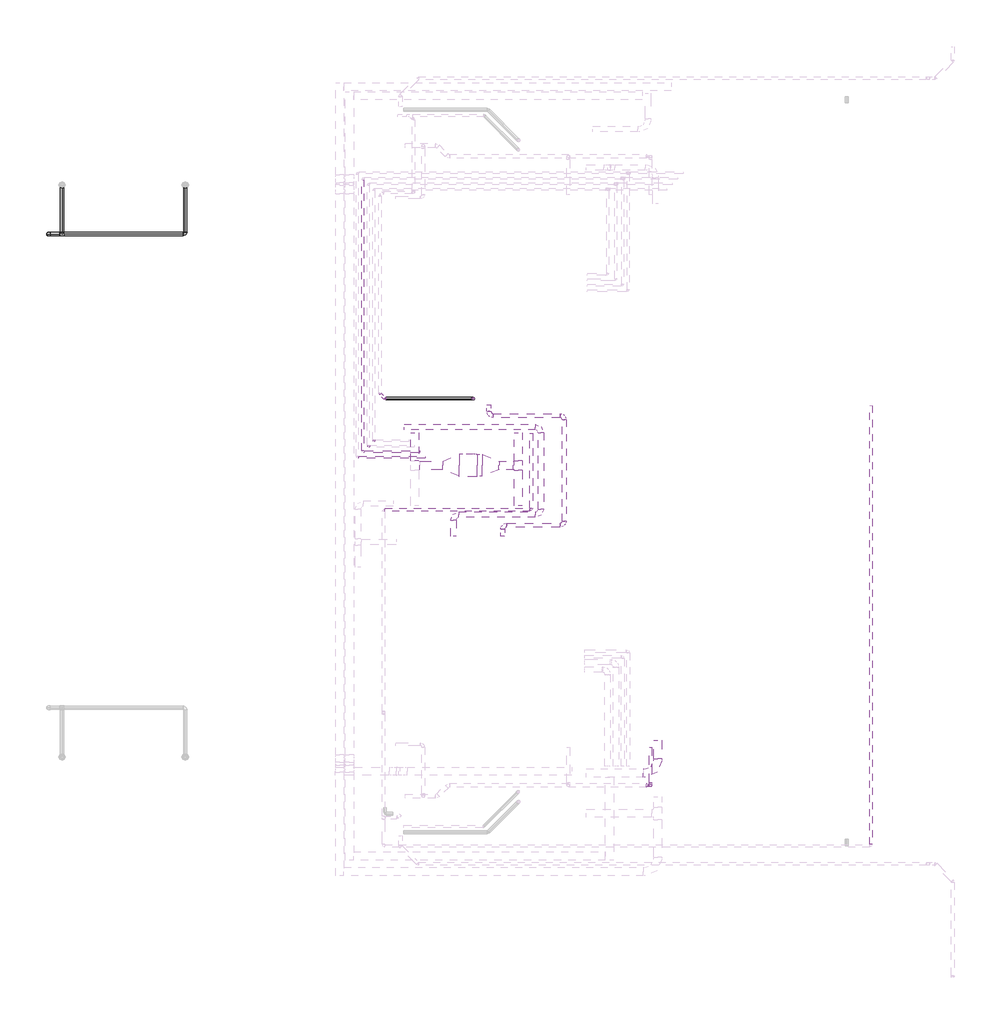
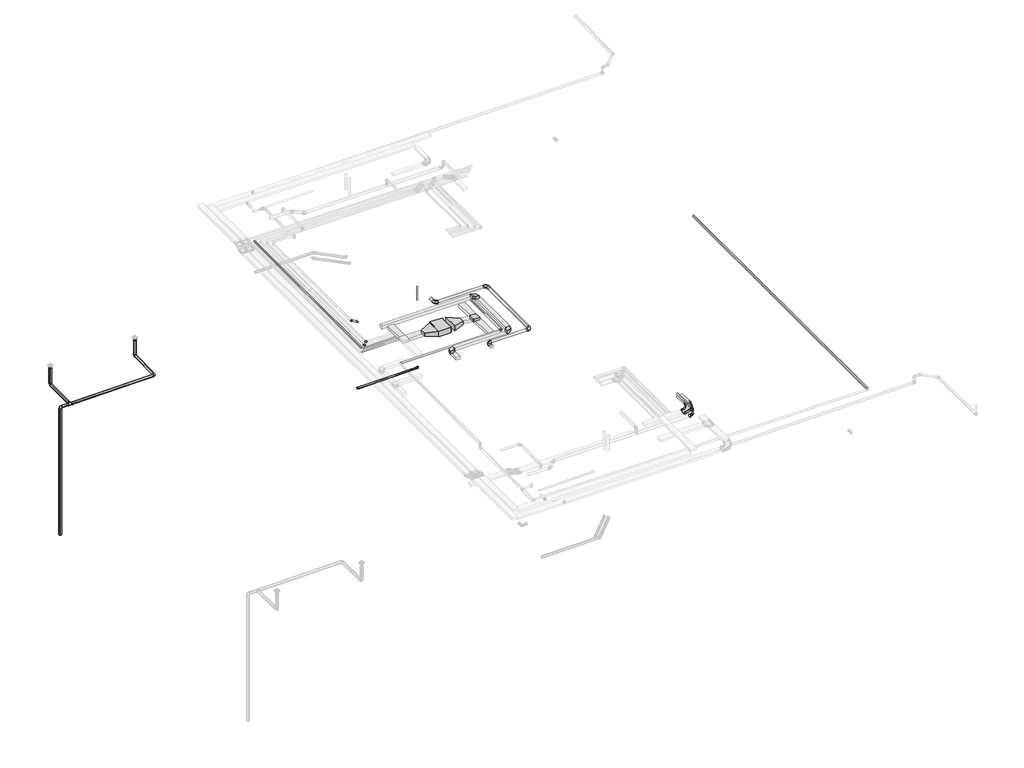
# One storey, part 3 of 5: 17 duct segments, 16 pipe segments, 13 duct fittings, 13 pipe fittings, 1 cable carrier fitting, 1 cable carrier segment, 1 proxy.
"""IFC4 building model written with IfcOpenShell, lengths in millimetres."""

from ifc_helpers import new_model, si_unit, point, frame, frame_2d, origin, place, context, project, spatial, polyline, circle_curve, trimmed, segment, composite_curve, outline, extrude, transform, mapped, element, save
from components import fc01_db58e849, m_codo_horizontal_de_canal_el_5b0e7b07, duct_fitting_c79161f8, duct_fitting_e8ecb067, duct_fitting_4802cc83, ext_95de42ea, m_codo_rectangular_radio_apt_1_w_a605e9b7, m_codo_redondo_ext_1_d_fe658834, m_codo_redondo_ext_1_d_96ea52f9, pipe_fitting_8e92d537, pipe_fitting_e4fb672d, pipe_fitting_932eafa3, pipe_fitting_014d1fef, pipe_fitting_7b861d32, pipe_fitting_a8c499ec, pipe_fitting_f5d6ed74, pipe_fitting_3a68447e, pipe_fitting_87aeffad

model = new_model("IFC4")

# Units and contexts
model_context = context("Model", 3, world=origin())
ifc_project = project(units=[si_unit("LENGTHUNIT", "METRE", prefix="MILLI")], contexts=[model_context])

# Site, building, storey
site = spatial("IfcSite", under=ifc_project)
building = spatial("IfcBuilding", under=site)
storey = spatial("IfcBuildingStorey", under=building, Name="Nivell 04 P04_PP", Elevation=22410.0)

# Proxy
placement = place(None, origin())
fc01_shape = fc01_db58e849(model_context)
element("IfcBuildingElementProxy", 1, Name="ARC_MDL_ME_UI_FC_ConducteSostre : FC01", ObjectType="ARC_MDL_ME_UI_FC_ConducteSostre : FC01", at=placement, inside=storey, context=model_context, shape_type="MappedRepresentation", body=[
    mapped(fc01_shape, transform((9681.3112506, -4290.0827616, 25519.6198525), x_axis=(-5.108879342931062e-05, -0.9999999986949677, 0.0), y_axis=(0.9999999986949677, -5.108879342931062e-05, 0.0), z_axis=(0.0, 0.0, 1.0))),
])

# Cable carrier fitting
m_codo_horizontal_de_canal_el_shape = m_codo_horizontal_de_canal_el_5b0e7b07(model_context)
element("IfcCableCarrierFitting", 2, ObjectType="M_Codo horizontal de canal : EL", at=placement, inside=storey, context=model_context, shape_type="MappedRepresentation", body=[
    mapped(m_codo_horizontal_de_canal_el_shape, transform((16614.6624278, -15521.1304394, 25510.0), x_axis=(1.0, 0.0, 0.0), y_axis=(0.0, 1.0, 0.0), z_axis=(0.0, 0.0, 1.0))),
])

# Cable carrier segment
element("IfcCableCarrierSegment", 3, ObjectType="EL", at=placement, inside=storey, context=model_context, shape_type="SweptSolid", body=[
    extrude(outline(polyline([(16464.6624278, -14321.1304394), (16764.6624278, -14321.1304394), (16764.6624278, -14996.1304394), (16464.6624278, -14996.1304394), (16464.6624278, -14321.1304394)])), frame((0.0, 0.0, 25460.0), z_axis=(0.0, 0.0, 1.0), x_axis=(1.0, 0.0, 0.0)), (0.0, 0.0, 1.0), 100.0),
])

# Duct fittings
duct_fitting_shape = duct_fitting_c79161f8(model_context)
element("IfcDuctFitting", 4, ObjectType="M_Transición redonda - Ángulo : EXT_45 graus", at=placement, inside=storey, context=model_context, shape_type="MappedRepresentation", body=[
    mapped(duct_fitting_shape, transform((16250.5896993, -15972.9719502, 25515.0), x_axis=(-1.0, 0.0, 0.0), y_axis=(0.0, -1.0, 0.0), z_axis=(0.0, 0.0, 1.0))),
])
duct_fitting_2_shape = duct_fitting_e8ecb067(model_context)
element("IfcDuctFitting", 5, ObjectType="M_Transición rectangular - Ángulo : EXT_45 graus", at=placement, inside=storey, context=model_context, shape_type="MappedRepresentation", body=[
    mapped(duct_fitting_2_shape, transform((9366.311258, -4289.9287549, 25677.1198525), x_axis=(-0.9999999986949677, 5.108879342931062e-05, 0.0), y_axis=(-5.108879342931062e-05, -0.9999999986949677, 0.0), z_axis=(0.0, 0.0, 1.0))),
])
duct_fitting_3_shape = duct_fitting_4802cc83(model_context)
element("IfcDuctFitting", 6, ObjectType="M_Transición rectangular - Ángulo : EXT_45 graus", at=placement, inside=storey, context=model_context, shape_type="MappedRepresentation", body=[
    mapped(duct_fitting_3_shape, transform((10216.57728, -4290.2068024, 25677.1198525), x_axis=(0.9999999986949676, -5.1088793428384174e-05, 0.0), y_axis=(5.1088793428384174e-05, 0.9999999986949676, 0.0), z_axis=(0.0, 0.0, 1.0))),
])
ext_shape = ext_95de42ea(model_context)
element("IfcDuctFitting", 7, ObjectType="M_Te rectangular : EXT", at=placement, inside=storey, context=model_context, shape_type="MappedRepresentation", body=[
    mapped(ext_shape, transform((11523.311255, -4289.9524808, 25575.8305344), x_axis=(0.0, -1.0, 0.0), y_axis=(1.0, 0.0, 0.0), z_axis=(0.0, 0.0, 1.0))),
])
m_codo_rectangular_radio_apt_1_w_shape = m_codo_rectangular_radio_apt_1_w_a605e9b7(model_context)
element("IfcDuctFitting", 8, ObjectType="M_Codo rectangular - Radio : EXT_1 W", at=placement, inside=storey, context=model_context, shape_type="MappedRepresentation", body=[
    mapped(m_codo_rectangular_radio_apt_1_w_shape, transform((12351.1206995, -6088.8306037, 25685.0), x_axis=(1.0, 0.0, 0.0), y_axis=(0.0, 1.0, 0.0), z_axis=(0.0, 0.0, 1.0))),
])
element("IfcDuctFitting", 9, ObjectType="M_Codo rectangular - Radio : EXT_1 W", at=placement, inside=storey, context=model_context, shape_type="MappedRepresentation", body=[
    mapped(m_codo_rectangular_radio_apt_1_w_shape, transform((9151.1206995, -6088.8306037, 25685.0), x_axis=(-1.0, 0.0, 0.0), y_axis=(0.0, -1.0, 0.0), z_axis=(0.0, 0.0, 1.0))),
])
element("IfcDuctFitting", 10, ObjectType="M_Codo rectangular - Radio : EXT_1 W", at=placement, inside=storey, context=model_context, shape_type="MappedRepresentation", body=[
    mapped(m_codo_rectangular_radio_apt_1_w_shape, transform((12351.1206995, -2888.8306037, 25685.0), x_axis=(0.0, 1.0, 0.0), y_axis=(-1.0, 0.0, 0.0), z_axis=(0.0, 0.0, 1.0))),
])
m_codo_redondo_ext_1_d_shape = m_codo_redondo_ext_1_d_fe658834(model_context)
element("IfcDuctFitting", 11, ObjectType="M_Codo redondo : EXT_1 D", at=placement, inside=storey, context=model_context, shape_type="MappedRepresentation", body=[
    mapped(m_codo_redondo_ext_1_d_shape, transform((10951.1206995, -6468.8306037, 25685.0), x_axis=(-1.0, 0.0, 0.0), y_axis=(0.0, -1.0, 0.0), z_axis=(0.0, 0.0, 1.0))),
])
element("IfcDuctFitting", 12, ObjectType="M_Codo redondo : EXT_1 D", at=placement, inside=storey, context=model_context, shape_type="MappedRepresentation", body=[
    mapped(m_codo_redondo_ext_1_d_shape, transform((13201.1206995, -6468.8306037, 25685.0), x_axis=(1.0, 0.0, 0.0), y_axis=(0.0, 1.0, 0.0), z_axis=(0.0, 0.0, 1.0))),
])
element("IfcDuctFitting", 13, ObjectType="M_Codo redondo : EXT_1 D", at=placement, inside=storey, context=model_context, shape_type="MappedRepresentation", body=[
    mapped(m_codo_redondo_ext_1_d_shape, transform((13201.1206995, -2468.8306037, 25685.0), x_axis=(0.0, 1.0, 0.0), y_axis=(-1.0, 0.0, 0.0), z_axis=(0.0, 0.0, 1.0))),
])
element("IfcDuctFitting", 14, ObjectType="M_Codo redondo : EXT_1 D", at=placement, inside=storey, context=model_context, shape_type="MappedRepresentation", body=[
    mapped(m_codo_redondo_ext_1_d_shape, transform((10451.1206995, -2468.8306037, 25685.0), x_axis=(0.0, -1.0, 0.0), y_axis=(1.0, 0.0, 0.0), z_axis=(0.0, 0.0, 1.0))),
])
m_codo_redondo_ext_1_d_2_shape = m_codo_redondo_ext_1_d_96ea52f9(model_context)
element("IfcDuctFitting", 15, ObjectType="M_Codo redondo : EXT_1 D", at=placement, inside=storey, context=model_context, shape_type="MappedRepresentation", body=[
    mapped(m_codo_redondo_ext_1_d_2_shape, transform((16350.5896993, -15972.9719502, 25860.0), x_axis=(0.0, -1.0, 0.0), y_axis=(0.0, 0.0, 1.0), z_axis=(-1.0, 0.0, 0.0))),
])
element("IfcDuctFitting", 16, ObjectType="M_Codo redondo : EXT_1 D", at=placement, inside=storey, context=model_context, shape_type="MappedRepresentation", body=[
    mapped(m_codo_redondo_ext_1_d_2_shape, transform((16350.5896993, -15972.9719502, 25515.0), x_axis=(0.0, 0.0, -1.0), y_axis=(1.0, 0.0, 0.0), z_axis=(0.0, -1.0, 0.0))),
])

# Duct segments
element("IfcDuctSegment", 17, ObjectType="EXT_Fibra de vidre rígida", at=placement, inside=storey, context=model_context, shape_type="SweptSolid", body=[
    extrude(outline(polyline([(9351.1206995, -6188.8306037), (9351.1206995, -5988.8306037), (12151.1206995, -5988.8306037), (12151.1206995, -6188.8306037), (9351.1206995, -6188.8306037)])), frame((0.0, 0.0, 25610.0), z_axis=(0.0, 0.0, 1.0), x_axis=(1.0, 0.0, 0.0)), (0.0, 0.0, 1.0), 150.0),
])
element("IfcDuctSegment", 18, ObjectType="EXT_Fibra de vidre rígida", at=placement, inside=storey, context=model_context, shape_type="SweptSolid", body=[
    extrude(outline(polyline([(12251.1206995, -3088.8306037), (12451.1206995, -3088.8306037), (12451.1206995, -5888.8306037), (12251.1206995, -5888.8306037), (12251.1206995, -3088.8306037)])), frame((0.0, 0.0, 25610.0), z_axis=(0.0, 0.0, 1.0), x_axis=(1.0, 0.0, 0.0)), (0.0, 0.0, 1.0), 150.0),
])
element("IfcDuctSegment", 19, ObjectType="EXT_Fibra de vidre rígida", at=placement, inside=storey, context=model_context, shape_type="SweptSolid", body=[
    extrude(outline(polyline([(9251.1206995, -6868.8306037), (9051.1206995, -6868.8306037), (9051.1206995, -6288.8306037), (9251.1206995, -6288.8306037), (9251.1206995, -6868.8306037)])), frame((0.0, 0.0, 25610.0), z_axis=(0.0, 0.0, 1.0), x_axis=(1.0, 0.0, 0.0)), (0.0, 0.0, 1.0), 150.0),
])
element("IfcDuctSegment", 20, ObjectType="EXT_Fibra de vidre rígida", at=placement, inside=storey, context=model_context, shape_type="SweptSolid", body=[
    extrude(outline(polyline([(7351.1206995, -2988.8306037), (7351.1206995, -2788.8306037), (12151.1206995, -2788.8306037), (12151.1206995, -2988.8306037), (7351.1206995, -2988.8306037)])), frame((0.0, 0.0, 25610.0), z_axis=(0.0, 0.0, 1.0), x_axis=(1.0, 0.0, 0.0)), (0.0, 0.0, 1.0), 150.0),
])
element("IfcDuctSegment", 21, ObjectType="EXT_Acer Galvanitzat - Rígid", at=placement, inside=storey, context=model_context, shape_type="SweptSolid", body=[
    extrude(outline(composite_curve([segment(trimmed(circle_curve(frame_2d((25685.0, 10951.1206995)), 75.0), [point((25685.0, 11026.1206995))], [point((25760.0, 10951.1206995))], False, "CARTESIAN"), True, "CONTINUOUS"), segment(trimmed(circle_curve(frame_2d((25685.0, 10951.1206995)), 75.0), [point((25760.0, 10951.1206995))], [point((25685.0, 10876.1206995))], False, "CARTESIAN"), True, "CONTINUOUS"), segment(trimmed(circle_curve(frame_2d((25685.0, 10951.1206995)), 75.0), [point((25685.0, 10876.1206995))], [point((25610.0, 10951.1206995))], False, "CARTESIAN"), True, "CONTINUOUS"), segment(trimmed(circle_curve(frame_2d((25685.0, 10951.1206995)), 75.0), [point((25610.0, 10951.1206995))], [point((25685.0, 11026.1206995))], False, "CARTESIAN"), True, "CONTINUOUS")], self_intersect=False)), frame((0.0, -6868.8306037, 0.0), z_axis=(0.0, 1.0, 0.0), x_axis=(0.0, 0.0, 1.0)), (0.0, 0.0, 1.0), 250.0),
])
element("IfcDuctSegment", 22, ObjectType="EXT_Acer Galvanitzat - Rígid", at=placement, inside=storey, context=model_context, shape_type="SweptSolid", body=[
    extrude(outline(composite_curve([segment(trimmed(circle_curve(frame_2d((-6468.8306037, 25685.0)), 75.0), [point((-6543.8306037, 25685.0))], [point((-6468.8306037, 25760.0))], False, "CARTESIAN"), True, "CONTINUOUS"), segment(trimmed(circle_curve(frame_2d((-6468.8306037, 25685.0)), 75.0), [point((-6468.8306037, 25760.0))], [point((-6393.8306037, 25685.0))], False, "CARTESIAN"), True, "CONTINUOUS"), segment(trimmed(circle_curve(frame_2d((-6468.8306037, 25685.0)), 75.0), [point((-6393.8306037, 25685.0))], [point((-6468.8306037, 25610.0))], False, "CARTESIAN"), True, "CONTINUOUS"), segment(trimmed(circle_curve(frame_2d((-6468.8306037, 25685.0)), 75.0), [point((-6468.8306037, 25610.0))], [point((-6543.8306037, 25685.0))], False, "CARTESIAN"), True, "CONTINUOUS")], self_intersect=False)), frame((11101.1206995, 0.0, 0.0), z_axis=(1.0, 0.0, 0.0), x_axis=(0.0, 1.0, 0.0)), (0.0, 0.0, 1.0), 1950.0),
])
element("IfcDuctSegment", 23, ObjectType="EXT_Acer Galvanitzat - Rígid", at=placement, inside=storey, context=model_context, shape_type="SweptSolid", body=[
    extrude(outline(composite_curve([segment(trimmed(circle_curve(frame_2d((25685.0, 13201.1206995)), 75.0), [point((25685.0, 13276.1206995))], [point((25760.0, 13201.1206995))], False, "CARTESIAN"), True, "CONTINUOUS"), segment(trimmed(circle_curve(frame_2d((25685.0, 13201.1206995)), 75.0), [point((25760.0, 13201.1206995))], [point((25685.0, 13126.1206995))], False, "CARTESIAN"), True, "CONTINUOUS"), segment(trimmed(circle_curve(frame_2d((25685.0, 13201.1206995)), 75.0), [point((25685.0, 13126.1206995))], [point((25610.0, 13201.1206995))], False, "CARTESIAN"), True, "CONTINUOUS"), segment(trimmed(circle_curve(frame_2d((25685.0, 13201.1206995)), 75.0), [point((25610.0, 13201.1206995))], [point((25685.0, 13276.1206995))], False, "CARTESIAN"), True, "CONTINUOUS")], self_intersect=False)), frame((0.0, -6318.8306037, 0.0), z_axis=(0.0, 1.0, 0.0), x_axis=(0.0, 0.0, 1.0)), (0.0, 0.0, 1.0), 3700.0),
])
element("IfcDuctSegment", 24, ObjectType="EXT_Acer Galvanitzat - Rígid", at=placement, inside=storey, context=model_context, shape_type="SweptSolid", body=[
    extrude(outline(composite_curve([segment(trimmed(circle_curve(frame_2d((-2468.8306037, 25685.0)), 75.0), [point((-2393.8306037, 25685.0))], [point((-2468.8306037, 25610.0))], False, "CARTESIAN"), True, "CONTINUOUS"), segment(trimmed(circle_curve(frame_2d((-2468.8306037, 25685.0)), 75.0), [point((-2468.8306037, 25610.0))], [point((-2543.8306037, 25685.0))], False, "CARTESIAN"), True, "CONTINUOUS"), segment(trimmed(circle_curve(frame_2d((-2468.8306037, 25685.0)), 75.0), [point((-2543.8306037, 25685.0))], [point((-2468.8306037, 25760.0))], False, "CARTESIAN"), True, "CONTINUOUS"), segment(trimmed(circle_curve(frame_2d((-2468.8306037, 25685.0)), 75.0), [point((-2468.8306037, 25760.0))], [point((-2393.8306037, 25685.0))], False, "CARTESIAN"), True, "CONTINUOUS")], self_intersect=False)), frame((10601.1206995, 0.0, 0.0), z_axis=(1.0, 0.0, 0.0), x_axis=(0.0, 1.0, 0.0)), (0.0, 0.0, 1.0), 2450.0),
])
element("IfcDuctSegment", 25, ObjectType="EXT_Acer Galvanitzat - Rígid", at=placement, inside=storey, context=model_context, shape_type="SweptSolid", body=[
    extrude(outline(composite_curve([segment(trimmed(circle_curve(frame_2d((25685.0, 10451.1206995)), 75.0), [point((25685.0, 10526.1206995))], [point((25760.0, 10451.1206995))], False, "CARTESIAN"), True, "CONTINUOUS"), segment(trimmed(circle_curve(frame_2d((25685.0, 10451.1206995)), 75.0), [point((25760.0, 10451.1206995))], [point((25685.0, 10376.1206995))], False, "CARTESIAN"), True, "CONTINUOUS"), segment(trimmed(circle_curve(frame_2d((25685.0, 10451.1206995)), 75.0), [point((25685.0, 10376.1206995))], [point((25610.0, 10451.1206995))], False, "CARTESIAN"), True, "CONTINUOUS"), segment(trimmed(circle_curve(frame_2d((25685.0, 10451.1206995)), 75.0), [point((25610.0, 10451.1206995))], [point((25685.0, 10526.1206995))], False, "CARTESIAN"), True, "CONTINUOUS")], self_intersect=False)), frame((0.0, -2318.8306037, 0.0), z_axis=(0.0, 1.0, 0.0), x_axis=(0.0, 0.0, 1.0)), (0.0, 0.0, 1.0), 250.0),
])
element("IfcDuctSegment", 26, ObjectType="EXT_Acer Galvanitzat - Rígid", at=placement, inside=storey, context=model_context, shape_type="SweptSolid", body=[
    extrude(outline(composite_curve([segment(trimmed(circle_curve(frame_2d((25860.0, 16350.5896993)), 50.0), [point((25860.0, 16400.5896993))], [point((25910.0, 16350.5896993))], False, "CARTESIAN"), True, "CONTINUOUS"), segment(trimmed(circle_curve(frame_2d((25860.0, 16350.5896993)), 50.0), [point((25910.0, 16350.5896993))], [point((25860.0, 16300.5896993))], False, "CARTESIAN"), True, "CONTINUOUS"), segment(trimmed(circle_curve(frame_2d((25860.0, 16350.5896993)), 50.0), [point((25860.0, 16300.5896993))], [point((25810.0, 16350.5896993))], False, "CARTESIAN"), True, "CONTINUOUS"), segment(trimmed(circle_curve(frame_2d((25860.0, 16350.5896993)), 50.0), [point((25810.0, 16350.5896993))], [point((25860.0, 16400.5896993))], False, "CARTESIAN"), True, "CONTINUOUS")], self_intersect=False)), frame((0.0, -15872.9719502, 0.0), z_axis=(0.0, 1.0, 0.0), x_axis=(0.0, 0.0, 1.0)), (0.0, 0.0, 1.0), 1301.48805),
])
element("IfcDuctSegment", 27, ObjectType="EXT_Acer Galvanitzat - Rígid", at=placement, inside=storey, context=model_context, shape_type="SweptSolid", body=[
    extrude(outline(composite_curve([segment(trimmed(circle_curve(frame_2d((16350.5896993, -15972.9719502)), 50.0), [point((16400.5896993, -15972.9719502))], [point((16350.5896993, -16022.9719502))], False, "CARTESIAN"), True, "CONTINUOUS"), segment(trimmed(circle_curve(frame_2d((16350.5896993, -15972.9719502)), 50.0), [point((16350.5896993, -16022.9719502))], [point((16300.5896993, -15972.9719502))], False, "CARTESIAN"), True, "CONTINUOUS"), segment(trimmed(circle_curve(frame_2d((16350.5896993, -15972.9719502)), 50.0), [point((16300.5896993, -15972.9719502))], [point((16350.5896993, -15922.9719502))], False, "CARTESIAN"), True, "CONTINUOUS"), segment(trimmed(circle_curve(frame_2d((16350.5896993, -15972.9719502)), 50.0), [point((16350.5896993, -15922.9719502))], [point((16400.5896993, -15972.9719502))], False, "CARTESIAN"), True, "CONTINUOUS")], self_intersect=False)), frame((0.0, 0.0, 25615.0), z_axis=(0.0, 0.0, 1.0), x_axis=(1.0, 0.0, 0.0)), (0.0, 0.0, 1.0), 145.0),
])
element("IfcDuctSegment", 28, ObjectType="EXT_Planxa galvanitzada", at=placement, inside=storey, context=model_context, shape_type="SweptSolid", body=[
    extrude(outline(polyline([(7921.1541547, -4439.9850919), (7921.1694813, -4139.9850923), (8762.765525, -4140.0280884), (8762.7501984, -4440.028088), (7921.1541547, -4439.9850919)])), frame((0.0, 0.0, 25602.1198525), z_axis=(0.0, 0.0, 1.0), x_axis=(1.0, 0.0, 0.0)), (0.0, 0.0, 1.0), 150.0),
])
element("IfcDuctSegment", 29, ObjectType="EXT_Planxa galvanitzada", at=placement, inside=storey, context=model_context, shape_type="SweptSolid", body=[
    extrude(outline(polyline([(0.0, -300.0000001), (0.0, 0.0), (530.6650356, 0.0), (530.6650356, -300.0000001), (0.0, -300.0000001)])), frame((11341.1284595, -4439.9556573, 25501.1816596), z_axis=(0.09665101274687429, 4.254610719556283e-05, 0.9953183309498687), x_axis=(-0.9953182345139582, -0.00043814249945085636, 0.09665102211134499)), (0.0, 0.0, 1.0), 150.0),
])
element("IfcDuctSegment", 30, ObjectType="EXT_Planxa galvanitzada", at=placement, inside=storey, context=model_context, shape_type="SweptSolid", body=[
    extrude(outline(polyline([(11673.311255, -4114.9524808), (11373.311255, -4114.9524808), (11373.311255, -3089.9878585), (11673.311255, -3089.9878585), (11673.311255, -4114.9524808)])), frame((0.0, 0.0, 25500.8305344), z_axis=(0.0, 0.0, 1.0), x_axis=(1.0, 0.0, 0.0)), (0.0, 0.0, 1.0), 150.0),
])
element("IfcDuctSegment", 31, ObjectType="EXT_Planxa galvanitzada", at=placement, inside=storey, context=model_context, shape_type="SweptSolid", body=[
    extrude(outline(polyline([(11373.311255, -4464.9524808), (11673.311255, -4464.9524808), (11673.311255, -5765.0566725), (11373.311255, -5765.0566725), (11373.311255, -4464.9524808)])), frame((0.0, 0.0, 25500.8305344), z_axis=(0.0, 0.0, 1.0), x_axis=(1.0, 0.0, 0.0)), (0.0, 0.0, 1.0), 150.0),
])
element("IfcDuctSegment", 32, ObjectType="EXT_Planxa galvanitzada", at=placement, inside=storey, context=model_context, shape_type="SweptSolid", body=[
    extrude(outline(polyline([(7896.1618177, -4114.9902017), (7596.1618177, -4114.9902002), (7596.1618227, -3089.9878578), (7896.1618227, -3089.9878592), (7896.1618177, -4114.9902017)])), frame((0.0, 0.0, 25602.1198525), z_axis=(0.0, 0.0, 1.0), x_axis=(1.0, 0.0, 0.0)), (0.0, 0.0, 1.0), 150.0),
])
element("IfcDuctSegment", 33, ObjectType="EXT_Planxa galvanitzada", at=placement, inside=storey, context=model_context, shape_type="SweptSolid", body=[
    extrude(outline(polyline([(10023.2908097, -4690.1969281), (10023.3316807, -3890.1969292), (10216.5977155, -3890.2068029), (10216.5568445, -4690.2068019), (10023.2908097, -4690.1969281)])), frame((0.0, 0.0, 25539.6198525), z_axis=(0.0, 0.0, 1.0), x_axis=(1.0, 0.0, 0.0)), (0.0, 0.0, 1.0), 275.0),
])

# Pipe fittings
pipe_fitting_shape = pipe_fitting_8e92d537(model_context)
element("IfcPipeFitting", 34, ObjectType="M_Codo - Genérico : Estándar", at=placement, inside=storey, context=model_context, shape_type="MappedRepresentation", body=[
    mapped(pipe_fitting_shape, transform((-5135.1220364, 5951.8267074, 21465.0044996), x_axis=(0.0, 0.0, -1.0), y_axis=(0.0, -1.0, 0.0), z_axis=(-1.0, 0.0, 0.0))),
])
element("IfcPipeFitting", 35, ObjectType="M_Codo - Genérico : Estándar", at=placement, inside=storey, context=model_context, shape_type="MappedRepresentation", body=[
    mapped(pipe_fitting_shape, transform((-5635.5719914, 4155.8263074, 21442.039996), x_axis=(-0.9999500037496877, 0.0, -0.009999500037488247), y_axis=(0.009999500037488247, 0.0, -0.9999500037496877), z_axis=(0.0, -1.0, 0.0))),
])
element("IfcPipeFitting", 36, ObjectType="M_Codo - Genérico : Estándar", at=placement, inside=storey, context=model_context, shape_type="MappedRepresentation", body=[
    mapped(pipe_fitting_shape, transform((-635.5719914, 5951.8267074, 21510.0), x_axis=(0.0, 0.0, -1.0), y_axis=(0.0, -1.0, 0.0), z_axis=(-1.0, 0.0, 0.0))),
])
pipe_fitting_2_shape = pipe_fitting_e4fb672d(model_context)
element("IfcPipeFitting", 37, ObjectType="M_Transición - Genérica : Estándar", at=placement, inside=storey, context=model_context, shape_type="MappedRepresentation", body=[
    mapped(pipe_fitting_2_shape, transform((-5135.1220364, 5951.8267074, 22408.0), x_axis=(0.0, 0.0, -1.0), y_axis=(-1.0, 0.0, 0.0), z_axis=(0.0, 1.0, 0.0))),
])
element("IfcPipeFitting", 38, ObjectType="M_Transición - Genérica : Estándar", at=placement, inside=storey, context=model_context, shape_type="MappedRepresentation", body=[
    mapped(pipe_fitting_2_shape, transform((-635.5719914, 5951.8267074, 22408.0), x_axis=(0.0, 0.0, -1.0), y_axis=(-1.0, 0.0, 0.0), z_axis=(0.0, 1.0, 0.0))),
])
pipe_fitting_3_shape = pipe_fitting_932eafa3(model_context)
element("IfcPipeFitting", 39, ObjectType="M_Codo - Genérico : Estándar", at=placement, inside=storey, context=model_context, shape_type="MappedRepresentation", body=[
    mapped(pipe_fitting_3_shape, transform((-635.5719914, 4155.8263074, 21492.039996), x_axis=(0.9999500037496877, 0.0, 0.009999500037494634), y_axis=(-9.998500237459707e-05, 0.999950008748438, 0.00999850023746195), z_axis=(-0.009999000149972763, -0.00999900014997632, 0.9999000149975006))),
])
pipe_fitting_4_shape = pipe_fitting_014d1fef(model_context)
element("IfcPipeFitting", 40, ObjectType="M_Te - Genérica : Estándar", at=placement, inside=storey, context=model_context, shape_type="MappedRepresentation", body=[
    mapped(pipe_fitting_4_shape, transform((-5135.1220364, 4155.8263074, 21447.0444956), x_axis=(0.9999500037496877, 0.0, 0.009999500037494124), y_axis=(9.998500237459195e-05, -0.999950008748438, -0.00999850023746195), z_axis=(0.009999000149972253, 0.00999900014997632, -0.9999000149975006))),
])
pipe_fitting_5_shape = pipe_fitting_7b861d32(model_context)
element("IfcPipeFitting", 41, ObjectType="M_Codo - Genérico : Estándar", at=placement, inside=storey, context=model_context, shape_type="MappedRepresentation", body=[
    mapped(pipe_fitting_5_shape, transform((6477.6345979, -1666.8281442, 25579.3801167), x_axis=(0.0, -0.9999500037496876, 0.00999950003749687), y_axis=(0.9999914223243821, 4.1416859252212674e-05, 0.004141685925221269), z_axis=(-0.004141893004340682, 0.009999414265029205, 0.9999414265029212))),
])
pipe_fitting_6_shape = pipe_fitting_a8c499ec(model_context)
element("IfcPipeFitting", 42, ObjectType="M_Codo - Genérico : Estándar", at=placement, inside=storey, context=model_context, shape_type="MappedRepresentation", body=[
    mapped(pipe_fitting_6_shape, transform((9883.1603089, -1851.9887948, 21864.2030013), x_axis=(0.9999500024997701, 4.9997101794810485e-05, 0.009999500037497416), y_axis=(-0.009999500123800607, 1.476482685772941e-06, 0.9999500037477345), z_axis=(4.997983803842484e-05, -0.9999999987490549, 1.976354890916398e-06))),
])
pipe_fitting_7_shape = pipe_fitting_f5d6ed74(model_context)
element("IfcPipeFitting", 43, ObjectType="M_Codo - Genérico : Estándar", at=placement, inside=storey, context=model_context, shape_type="MappedRepresentation", body=[
    mapped(pipe_fitting_7_shape, transform((6662.9562575, -1852.1498037, 25582.0009608), x_axis=(0.707071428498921, -0.7070714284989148, 0.00999950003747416), y_axis=(0.7070714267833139, 0.7071300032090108, 0.004141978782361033), z_axis=(-0.009999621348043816, 0.004141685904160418, 0.9999414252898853))),
])
pipe_fitting_8_shape = pipe_fitting_3a68447e(model_context)
element("IfcPipeFitting", 44, ObjectType="M_Codo - Genérico : Estándar", at=placement, inside=storey, context=model_context, shape_type="MappedRepresentation", body=[
    mapped(pipe_fitting_8_shape, transform((6245.7381883, -3394.9253722, 25522.5), x_axis=(0.0, -1.0, 0.0), y_axis=(1.0, 0.0, 0.0), z_axis=(0.0, 0.0, 1.0))),
])
element("IfcPipeFitting", 45, ObjectType="M_Codo - Genérico : Estándar", at=placement, inside=storey, context=model_context, shape_type="MappedRepresentation", body=[
    mapped(pipe_fitting_8_shape, transform((6045.7381883, -3594.9253722, 25522.5), x_axis=(0.0, -1.0, 0.0), y_axis=(1.0, 0.0, 0.0), z_axis=(0.0, 0.0, 1.0))),
])
pipe_fitting_9_shape = pipe_fitting_87aeffad(model_context)
element("IfcPipeFitting", 46, ObjectType="M_Codo - Genérico : Estándar", at=placement, inside=storey, context=model_context, shape_type="MappedRepresentation", body=[
    mapped(pipe_fitting_9_shape, transform((11998.0330075, -5912.8731458, 25710.8), x_axis=(1.0, 0.0, 0.0), y_axis=(0.0, 1.0, 0.0), z_axis=(0.0, 0.0, 1.0))),
])

# Pipe segments
element("IfcPipeSegment", 47, ObjectType="PVC_Baixant", at=placement, inside=storey, context=model_context, shape_type="SweptSolid", body=[
    extrude(outline(composite_curve([segment(trimmed(circle_curve(frame_2d((0.0, -62.5000001)), 62.5), [point((-62.5, -62.5000001))], [point((0.0, 0.0))], False, "CARTESIAN"), True, "CONTINUOUS"), segment(trimmed(circle_curve(frame_2d((0.0, -62.5000001)), 62.5), [point((0.0, 0.0))], [point((62.5, -62.5000001))], False, "CARTESIAN"), True, "CONTINUOUS"), segment(trimmed(circle_curve(frame_2d((0.0, -62.5000001)), 62.5), [point((62.5, -62.5000001))], [point((0.0, -125.0))], False, "CARTESIAN"), True, "CONTINUOUS"), segment(trimmed(circle_curve(frame_2d((0.0, -62.5000001)), 62.5), [point((0.0, -125.0))], [point((-62.5, -62.5000001))], False, "CARTESIAN"), True, "CONTINUOUS")], self_intersect=False)), frame((-5135.1220364, 4234.2348871, 21385.3254564), z_axis=(0.0, 0.9999500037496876, 0.009999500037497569), x_axis=(1.0, 0.0, 0.0)), (0.0, 0.0, 1.0), 1647.5760009),
])
element("IfcPipeSegment", 48, ObjectType="PVC_Baixant", at=placement, inside=storey, context=model_context, shape_type="SweptSolid", body=[
    extrude(outline(composite_curve([segment(trimmed(circle_curve(frame_2d((-5135.1220364, 5951.8267074)), 62.5), [point((-5072.6220364, 5951.8267074))], [point((-5135.1220364, 5889.3267074))], False, "CARTESIAN"), True, "CONTINUOUS"), segment(trimmed(circle_curve(frame_2d((-5135.1220364, 5951.8267074)), 62.5), [point((-5135.1220364, 5889.3267074))], [point((-5197.6220364, 5951.8267074))], False, "CARTESIAN"), True, "CONTINUOUS"), segment(trimmed(circle_curve(frame_2d((-5135.1220364, 5951.8267074)), 62.5), [point((-5197.6220364, 5951.8267074))], [point((-5135.1220364, 6014.3267074))], False, "CARTESIAN"), True, "CONTINUOUS"), segment(trimmed(circle_curve(frame_2d((-5135.1220364, 5951.8267074)), 62.5), [point((-5135.1220364, 6014.3267074))], [point((-5072.6220364, 5951.8267074))], False, "CARTESIAN"), True, "CONTINUOUS")], self_intersect=False)), frame((0.0, 0.0, 21535.7311963), z_axis=(0.0, 0.0, 1.0), x_axis=(1.0, 0.0, 0.0)), (0.0, 0.0, 1.0), 839.7250537),
])
element("IfcPipeSegment", 49, ObjectType="PVC_Baixant", at=placement, inside=storey, context=model_context, shape_type="SweptSolid", body=[
    extrude(outline(composite_curve([segment(trimmed(circle_curve(frame_2d((0.0, -62.5)), 62.5), [point((0.0, 0.0))], [point((62.5, -62.5))], False, "CARTESIAN"), True, "CONTINUOUS"), segment(trimmed(circle_curve(frame_2d((0.0, -62.5)), 62.5), [point((62.5, -62.5))], [point((0.0, -125.0))], False, "CARTESIAN"), True, "CONTINUOUS"), segment(trimmed(circle_curve(frame_2d((0.0, -62.5)), 62.5), [point((0.0, -125.0))], [point((-62.5, -62.5))], False, "CARTESIAN"), True, "CONTINUOUS"), segment(trimmed(circle_curve(frame_2d((0.0, -62.5)), 62.5), [point((-62.5, -62.5))], [point((0.0, 0.0))], False, "CARTESIAN"), True, "CONTINUOUS")], self_intersect=False)), frame((-5564.8488307, 4218.3263074, 21442.7472276), z_axis=(0.9999500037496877, 0.0, 0.009999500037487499), x_axis=(0.009999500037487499, 0.0, -0.9999500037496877)), (0.0, 0.0, 1.0), 351.9607801),
])
element("IfcPipeSegment", 50, ObjectType="PVC_Baixant", at=placement, inside=storey, context=model_context, shape_type="SweptSolid", body=[
    extrude(outline(composite_curve([segment(trimmed(circle_curve(frame_2d((0.0, -62.5000001)), 62.5), [point((-62.5, -62.5000001))], [point((0.0, 0.0))], False, "CARTESIAN"), True, "CONTINUOUS"), segment(trimmed(circle_curve(frame_2d((0.0, -62.5000001)), 62.5), [point((0.0, 0.0))], [point((62.5, -62.5000001))], False, "CARTESIAN"), True, "CONTINUOUS"), segment(trimmed(circle_curve(frame_2d((0.0, -62.5000001)), 62.5), [point((62.5, -62.5000001))], [point((0.0, -125.0))], False, "CARTESIAN"), True, "CONTINUOUS"), segment(trimmed(circle_curve(frame_2d((0.0, -62.5000001)), 62.5), [point((0.0, -125.0))], [point((-62.5, -62.5000001))], False, "CARTESIAN"), True, "CONTINUOUS")], self_intersect=False)), frame((-635.5719914, 4227.8780622, 21430.2573886), z_axis=(0.0, 0.9999500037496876, 0.009999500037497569), x_axis=(1.0, 0.0, 0.0)), (0.0, 0.0, 1.0), 1653.9331436),
])
element("IfcPipeSegment", 51, ObjectType="PVC_Baixant", at=placement, inside=storey, context=model_context, shape_type="SweptSolid", body=[
    extrude(outline(composite_curve([segment(trimmed(circle_curve(frame_2d((-635.5719914, 5951.8267074)), 62.5), [point((-573.0719914, 5951.8267074))], [point((-635.5719914, 5889.3267074))], False, "CARTESIAN"), True, "CONTINUOUS"), segment(trimmed(circle_curve(frame_2d((-635.5719914, 5951.8267074)), 62.5), [point((-635.5719914, 5889.3267074))], [point((-698.0719914, 5951.8267074))], False, "CARTESIAN"), True, "CONTINUOUS"), segment(trimmed(circle_curve(frame_2d((-635.5719914, 5951.8267074)), 62.5), [point((-698.0719914, 5951.8267074))], [point((-635.5719914, 6014.3267074))], False, "CARTESIAN"), True, "CONTINUOUS"), segment(trimmed(circle_curve(frame_2d((-635.5719914, 5951.8267074)), 62.5), [point((-635.5719914, 6014.3267074))], [point((-573.0719914, 5951.8267074))], False, "CARTESIAN"), True, "CONTINUOUS")], self_intersect=False)), frame((0.0, 0.0, 21580.7266968), z_axis=(0.0, 0.0, 1.0), x_axis=(1.0, 0.0, 0.0)), (0.0, 0.0, 1.0), 794.7295532),
])
element("IfcPipeSegment", 52, ObjectType="PVC_Baixant", at=placement, inside=storey, context=model_context, shape_type="SweptSolid", body=[
    extrude(outline(composite_curve([segment(trimmed(circle_curve(frame_2d((0.0, -62.5)), 62.5), [point((0.0, 0.0))], [point((62.5000001, -62.5))], False, "CARTESIAN"), True, "CONTINUOUS"), segment(trimmed(circle_curve(frame_2d((0.0, -62.5)), 62.5), [point((62.5000001, -62.5))], [point((0.0, -125.0))], False, "CARTESIAN"), True, "CONTINUOUS"), segment(trimmed(circle_curve(frame_2d((0.0, -62.5)), 62.5), [point((0.0, -125.0))], [point((-62.5, -62.5))], False, "CARTESIAN"), True, "CONTINUOUS"), segment(trimmed(circle_curve(frame_2d((0.0, -62.5)), 62.5), [point((-62.5, -62.5))], [point((0.0, 0.0))], False, "CARTESIAN"), True, "CONTINUOUS")], self_intersect=False)), frame((-5057.3384255, 4218.3263074, 21447.8223317), z_axis=(0.9999500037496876, 0.0, 0.009999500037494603), x_axis=(0.009999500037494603, 0.0, -0.9999500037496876)), (0.0, 0.0, 1.0), 4350.5571596),
])
element("IfcPipeSegment", 53, ObjectType="PVC_Baixant", at=placement, inside=storey, context=model_context, shape_type="SweptSolid", body=[
    extrude(outline(composite_curve([segment(trimmed(circle_curve(frame_2d((0.0, 45.0)), 45.0), [point((0.2250067, 0.0005625))], [point((-44.9994375, 44.7749933))], False, "CARTESIAN"), True, "CONTINUOUS"), segment(trimmed(circle_curve(frame_2d((0.0, 45.0)), 45.0), [point((-44.9994375, 44.7749933))], [point((-0.2250066, 89.9994374))], False, "CARTESIAN"), True, "CONTINUOUS"), segment(trimmed(circle_curve(frame_2d((0.0, 45.0)), 45.0), [point((-0.2250066, 89.9994374))], [point((44.9994375, 45.2250066))], False, "CARTESIAN"), True, "CONTINUOUS"), segment(trimmed(circle_curve(frame_2d((0.0, 45.0)), 45.0), [point((44.9994375, 45.2250066))], [point((0.2250067, 0.0005625))], False, "CARTESIAN"), True, "CONTINUOUS")], self_intersect=False)), frame((6684.6550488, -1897.1481563, 21832.4429441), z_axis=(0.9999500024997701, 4.999710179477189e-05, 0.009999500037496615), x_axis=(0.00999962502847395, -0.0049996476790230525, -0.9999375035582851)), (0.0, 0.0, 1.0), 3146.8002563),
])
element("IfcPipeSegment", 54, ObjectType="PVC_Baixant", at=placement, inside=storey, context=model_context, shape_type="SweptSolid", body=[
    extrude(outline(composite_curve([segment(trimmed(circle_curve(frame_2d((0.0, 45.0)), 45.0), [point((-45.0, 45.0))], [point((0.0, 90.0))], False, "CARTESIAN"), True, "CONTINUOUS"), segment(trimmed(circle_curve(frame_2d((0.0, 45.0)), 45.0), [point((0.0, 90.0))], [point((45.0, 45.0))], False, "CARTESIAN"), True, "CONTINUOUS"), segment(trimmed(circle_curve(frame_2d((0.0, 45.0)), 45.0), [point((45.0, 45.0))], [point((0.0, 0.0))], False, "CARTESIAN"), True, "CONTINUOUS"), segment(trimmed(circle_curve(frame_2d((0.0, 45.0)), 45.0), [point((0.0, 0.0))], [point((-45.0, 45.0))], False, "CARTESIAN"), True, "CONTINUOUS")], self_intersect=False)), frame((9883.161624, -1896.9886923, 25666.0676156), z_axis=(3.596218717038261e-05, -6.996116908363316e-06, 0.9999999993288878), x_axis=(0.9999999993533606, 2.5159607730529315e-10, -3.596218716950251e-05)), (0.0, 0.0, 1.0), 743.9320611),
])
element("IfcPipeSegment", 55, ObjectType="PVC_Baixant", at=placement, inside=storey, context=model_context, shape_type="SweptSolid", body=[
    extrude(outline(composite_curve([segment(trimmed(circle_curve(frame_2d((0.0, -45.0)), 45.0), [point((44.9977504, -44.550045))], [point((0.449955, -89.9977504))], False, "CARTESIAN"), True, "CONTINUOUS"), segment(trimmed(circle_curve(frame_2d((0.0, -45.0)), 45.0), [point((0.449955, -89.9977504))], [point((-44.9977503, -45.449955))], False, "CARTESIAN"), True, "CONTINUOUS"), segment(trimmed(circle_curve(frame_2d((0.0, -45.0)), 45.0), [point((-44.9977503, -45.449955))], [point((-0.449955, -0.0022496))], False, "CARTESIAN"), True, "CONTINUOUS"), segment(trimmed(circle_curve(frame_2d((0.0, -45.0)), 45.0), [point((-0.449955, -0.0022496))], [point((44.9977504, -44.550045))], False, "CARTESIAN"), True, "CONTINUOUS")], self_intersect=False)), frame((6492.9768756, -1681.5340894, 25624.59259), z_axis=(0.7070714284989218, -0.707071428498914, 0.009999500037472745), x_axis=(0.7071421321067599, 0.7070007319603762, -0.009998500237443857)), (0.0, 0.0, 1.0), 218.6992899),
])
element("IfcPipeSegment", 56, ObjectType="PPR_CLI_Aquatherm Blue Pipe", at=placement, inside=storey, context=model_context, shape_type="SweptSolid", body=[
    extrude(outline(composite_curve([segment(trimmed(circle_curve(frame_2d((25522.5, 5845.7381883)), 37.5), [point((25522.5, 5883.2381883))], [point((25560.0, 5845.7381883))], False, "CARTESIAN"), True, "CONTINUOUS"), segment(trimmed(circle_curve(frame_2d((25522.5, 5845.7381883)), 37.5), [point((25560.0, 5845.7381883))], [point((25522.5, 5808.2381883))], False, "CARTESIAN"), True, "CONTINUOUS"), segment(trimmed(circle_curve(frame_2d((25522.5, 5845.7381883)), 37.5), [point((25522.5, 5808.2381883))], [point((25485.0, 5845.7381883))], False, "CARTESIAN"), True, "CONTINUOUS"), segment(trimmed(circle_curve(frame_2d((25522.5, 5845.7381883)), 37.5), [point((25485.0, 5845.7381883))], [point((25522.5, 5883.2381883))], False, "CARTESIAN"), True, "CONTINUOUS")], self_intersect=False)), frame((0.0, -3749.4878722, 0.0), z_axis=(0.0, 1.0, 0.0), x_axis=(0.0, 0.0, 1.0)), (0.0, 0.0, 1.0), 9898.2931269),
])
element("IfcPipeSegment", 57, ObjectType="PPR_CLI_Aquatherm Blue Pipe", at=placement, inside=storey, context=model_context, shape_type="SweptSolid", body=[
    extrude(outline(composite_curve([segment(trimmed(circle_curve(frame_2d((-3794.9253722, 25522.5)), 37.5), [point((-3832.4253722, 25522.5))], [point((-3794.9253722, 25560.0))], False, "CARTESIAN"), True, "CONTINUOUS"), segment(trimmed(circle_curve(frame_2d((-3794.9253722, 25522.5)), 37.5), [point((-3794.9253722, 25560.0))], [point((-3757.4253722, 25522.5))], False, "CARTESIAN"), True, "CONTINUOUS"), segment(trimmed(circle_curve(frame_2d((-3794.9253722, 25522.5)), 37.5), [point((-3757.4253722, 25522.5))], [point((-3794.9253722, 25485.0))], False, "CARTESIAN"), True, "CONTINUOUS"), segment(trimmed(circle_curve(frame_2d((-3794.9253722, 25522.5)), 37.5), [point((-3794.9253722, 25485.0))], [point((-3832.4253722, 25522.5))], False, "CARTESIAN"), True, "CONTINUOUS")], self_intersect=False)), frame((5891.1756883, 0.0, 0.0), z_axis=(1.0, 0.0, 0.0), x_axis=(0.0, 1.0, 0.0)), (0.0, 0.0, 1.0), 2034.603417),
])
element("IfcPipeSegment", 58, ObjectType="PPR_CLI_Aquatherm Blue Pipe", at=placement, inside=storey, context=model_context, shape_type="SweptSolid", body=[
    extrude(outline(composite_curve([segment(trimmed(circle_curve(frame_2d((-3994.9253722, 25522.5)), 37.5), [point((-4032.4253722, 25522.5))], [point((-3994.9253722, 25560.0))], False, "CARTESIAN"), True, "CONTINUOUS"), segment(trimmed(circle_curve(frame_2d((-3994.9253722, 25522.5)), 37.5), [point((-3994.9253722, 25560.0))], [point((-3957.4253722, 25522.5))], False, "CARTESIAN"), True, "CONTINUOUS"), segment(trimmed(circle_curve(frame_2d((-3994.9253722, 25522.5)), 37.5), [point((-3957.4253722, 25522.5))], [point((-3994.9253722, 25485.0))], False, "CARTESIAN"), True, "CONTINUOUS"), segment(trimmed(circle_curve(frame_2d((-3994.9253722, 25522.5)), 37.5), [point((-3994.9253722, 25485.0))], [point((-4032.4253722, 25522.5))], False, "CARTESIAN"), True, "CONTINUOUS")], self_intersect=False)), frame((5691.1756883, 0.0, 0.0), z_axis=(1.0, 0.0, 0.0), x_axis=(0.0, 1.0, 0.0)), (0.0, 0.0, 1.0), 2434.603417),
])
element("IfcPipeSegment", 59, ObjectType="AN_CI", at=placement, inside=storey, context=model_context, shape_type="SweptSolid", body=[
    extrude(outline(composite_curve([segment(trimmed(circle_curve(frame_2d((-5912.8731458, 25710.8)), 50.8), [point((-5963.6731458, 25710.8))], [point((-5912.8731458, 25761.6))], False, "CARTESIAN"), True, "CONTINUOUS"), segment(trimmed(circle_curve(frame_2d((-5912.8731458, 25710.8)), 50.8), [point((-5912.8731458, 25761.6))], [point((-5862.0731458, 25710.8))], False, "CARTESIAN"), True, "CONTINUOUS"), segment(trimmed(circle_curve(frame_2d((-5912.8731458, 25710.8)), 50.8), [point((-5862.0731458, 25710.8))], [point((-5912.8731458, 25660.0))], False, "CARTESIAN"), True, "CONTINUOUS"), segment(trimmed(circle_curve(frame_2d((-5912.8731458, 25710.8)), 50.8), [point((-5912.8731458, 25660.0))], [point((-5963.6731458, 25710.8))], False, "CARTESIAN"), True, "CONTINUOUS")], self_intersect=False)), frame((6656.2816113, 0.0, 0.0), z_axis=(1.0, 0.0, 0.0), x_axis=(0.0, 1.0, 0.0)), (0.0, 0.0, 1.0), 5289.3638963),
])
element("IfcPipeSegment", 60, ObjectType="AN_CI", at=placement, inside=storey, context=model_context, shape_type="SweptSolid", body=[
    extrude(outline(composite_curve([segment(trimmed(circle_curve(frame_2d((25710.8, 11998.0330075)), 50.8), [point((25710.8, 12048.8330075))], [point((25761.6, 11998.0330075))], False, "CARTESIAN"), True, "CONTINUOUS"), segment(trimmed(circle_curve(frame_2d((25710.8, 11998.0330075)), 50.8), [point((25761.6, 11998.0330075))], [point((25710.8, 11947.2330075))], False, "CARTESIAN"), True, "CONTINUOUS"), segment(trimmed(circle_curve(frame_2d((25710.8, 11998.0330075)), 50.8), [point((25710.8, 11947.2330075))], [point((25660.0, 11998.0330075))], False, "CARTESIAN"), True, "CONTINUOUS"), segment(trimmed(circle_curve(frame_2d((25710.8, 11998.0330075)), 50.8), [point((25660.0, 11998.0330075))], [point((25710.8, 12048.8330075))], False, "CARTESIAN"), True, "CONTINUOUS")], self_intersect=False)), frame((0.0, -5860.4856458, 0.0), z_axis=(0.0, 1.0, 0.0), x_axis=(0.0, 0.0, 1.0)), (0.0, 0.0, 1.0), 2747.6125),
])
element("IfcPipeSegment", 61, ObjectType="AN_CI", at=placement, inside=storey, context=model_context, shape_type="SweptSolid", body=[
    extrude(outline(composite_curve([segment(trimmed(circle_curve(frame_2d((25459.2, 24403.8941113)), 50.8), [point((25459.2, 24454.6941113))], [point((25510.0, 24403.8941113))], False, "CARTESIAN"), True, "CONTINUOUS"), segment(trimmed(circle_curve(frame_2d((25459.2, 24403.8941113)), 50.8), [point((25510.0, 24403.8941113))], [point((25459.2, 24353.0941113))], False, "CARTESIAN"), True, "CONTINUOUS"), segment(trimmed(circle_curve(frame_2d((25459.2, 24403.8941113)), 50.8), [point((25459.2, 24353.0941113))], [point((25408.4, 24403.8941113))], False, "CARTESIAN"), True, "CONTINUOUS"), segment(trimmed(circle_curve(frame_2d((25459.2, 24403.8941113)), 50.8), [point((25408.4, 24403.8941113))], [point((25459.2, 24454.6941113))], False, "CARTESIAN"), True, "CONTINUOUS")], self_intersect=False)), frame((0.0, -18129.2231458, 0.0), z_axis=(0.0, 1.0, 0.0), x_axis=(0.0, 0.0, 1.0)), (0.0, 0.0, 1.0), 16017.6125),
])
element("IfcPipeSegment", 62, ObjectType="PVC_Baixant", at=placement, inside=storey, context=model_context, shape_type="SweptSolid", body=[
    extrude(outline(composite_curve([segment(trimmed(circle_curve(frame_2d((-5635.5719914, 4155.8263074)), 62.5), [point((-5573.0719914, 4155.8263074))], [point((-5635.5719914, 4093.3263074))], False, "CARTESIAN"), True, "CONTINUOUS"), segment(trimmed(circle_curve(frame_2d((-5635.5719914, 4155.8263074)), 62.5), [point((-5635.5719914, 4093.3263074))], [point((-5698.0719914, 4155.8263074))], False, "CARTESIAN"), True, "CONTINUOUS"), segment(trimmed(circle_curve(frame_2d((-5635.5719914, 4155.8263074)), 62.5), [point((-5698.0719914, 4155.8263074))], [point((-5635.5719914, 4218.3263074))], False, "CARTESIAN"), True, "CONTINUOUS"), segment(trimmed(circle_curve(frame_2d((-5635.5719914, 4155.8263074)), 62.5), [point((-5635.5719914, 4218.3263074))], [point((-5573.0719914, 4155.8263074))], False, "CARTESIAN"), True, "CONTINUOUS")], self_intersect=False)), frame((0.0, 0.0, 14283.8570492), z_axis=(0.0, 0.0, 1.0), x_axis=(1.0, 0.0, 0.0)), (0.0, 0.0, 1.0), 7087.45625),
])

save(model, "model.ifc")
